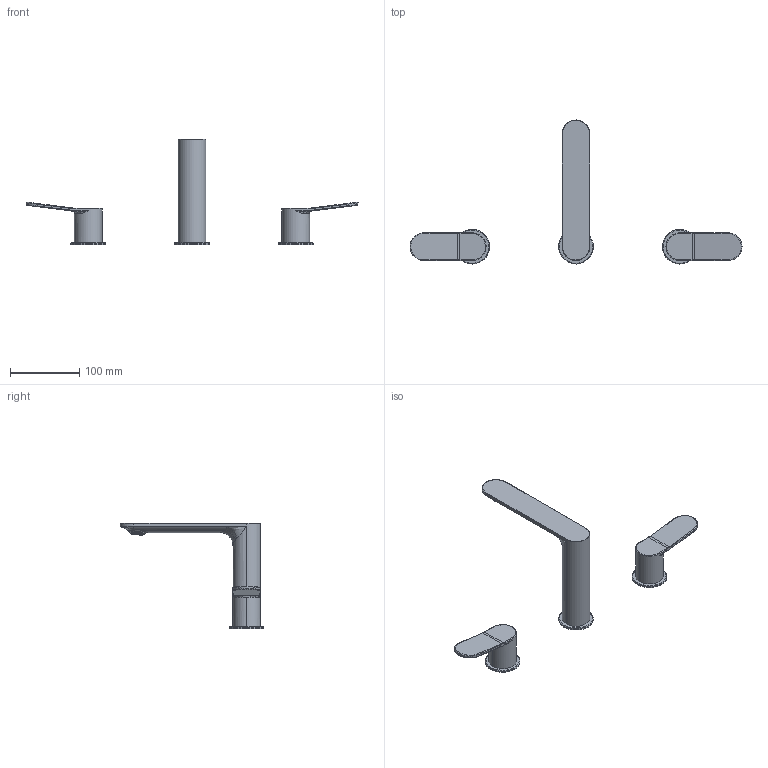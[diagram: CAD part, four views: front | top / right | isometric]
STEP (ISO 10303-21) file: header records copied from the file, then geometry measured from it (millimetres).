
FILE_DESCRIPTION (( 'STEP AP214' ), '1' );
FILE_NAME ('82326110 x architetti.STEP', '2025-01-10T12:42:11', ( '' ), ( '' ), 'SwSTEP 2.0', 'SolidWorks 2020', '' );
FILE_SCHEMA (( 'AUTOMOTIVE_DESIGN' ));
Length unit declared in the file: millimetre
Products named in the file (3): 82326110 x architetti; F0005899
Assembly tree (2 placements, depth 2):
  82326110 x architetti
    82326110 x architetti
    F0005899
Bounding box: 479.99 x 208 x 153 mm (x, y, z)
Volume: 425931.9 mm3; surface area: 72777.7 mm2
Topology: 4 solids, 4 shells, 3976 faces, 10144 edges, 6535 vertices
Faces by surface type: plane 2989, cone 419, cylinder 412, bspline 156
Entity records: 161643 total; most frequent: CARTESIAN_POINT 46514, ORIENTED_EDGE 20276, DIRECTION 12644, EDGE_CURVE 10138, VERTEX_POINT 6535, B_SPLINE_CURVE_WITH_KNOTS 5126, EDGE_LOOP 4341, AXIS2_PLACEMENT_3D 4240
